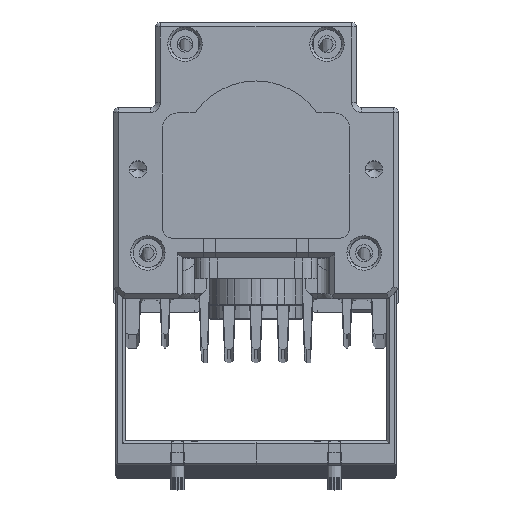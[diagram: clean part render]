
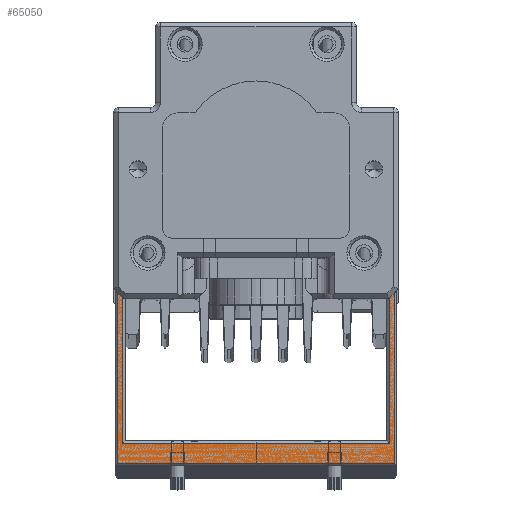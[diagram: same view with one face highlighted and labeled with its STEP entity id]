
A CAD part, top view. The second image highlights one B-rep face of the part: STEP entity #65050.
In plain terms, the highlighted planar face has unit normal (0, 0, 1).
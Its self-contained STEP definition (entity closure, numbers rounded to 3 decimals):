
#63782=DIRECTION('',(0.,1.,0.));
#63783=VECTOR('',#63782,1.);
#63784=CARTESIAN_POINT('',(-23.,-21.6,742.));
#63785=LINE('',#63784,#63783);
#63868=DIRECTION('',(0.,-1.,0.));
#63869=VECTOR('',#63868,1.);
#63870=CARTESIAN_POINT('',(23.,-20.6,742.));
#63871=LINE('',#63870,#63869);
#63892=DIRECTION('',(-1.,0.,0.));
#63893=VECTOR('',#63892,5.15);
#63894=CARTESIAN_POINT('',(28.15,-20.6,742.));
#63895=LINE('',#63894,#63893);
#63904=DIRECTION('',(0.,1.,0.));
#63905=VECTOR('',#63904,40.5);
#63906=CARTESIAN_POINT('',(28.15,-61.1,742.));
#63907=LINE('',#63906,#63905);
#64004=DIRECTION('',(1.,0.,0.));
#64005=VECTOR('',#64004,56.3);
#64006=CARTESIAN_POINT('',(-28.15,-61.1,742.));
#64007=LINE('',#64006,#64005);
#64012=DIRECTION('',(0.,-1.,0.));
#64013=VECTOR('',#64012,40.5);
#64014=CARTESIAN_POINT('',(-28.15,-20.6,742.));
#64015=LINE('',#64014,#64013);
#64024=DIRECTION('',(-1.,0.,0.));
#64025=VECTOR('',#64024,5.15);
#64026=CARTESIAN_POINT('',(-23.,-20.6,742.));
#64027=LINE('',#64026,#64025);
#64048=DIRECTION('',(1.,0.,0.));
#64049=VECTOR('',#64048,4.15);
#64050=CARTESIAN_POINT('',(-27.15,-21.6,742.));
#64051=LINE('',#64050,#64049);
#64152=DIRECTION('',(-1.,0.,0.));
#64153=VECTOR('',#64152,54.3);
#64154=CARTESIAN_POINT('',(27.15,-57.1,742.));
#64155=LINE('',#64154,#64153);
#64160=DIRECTION('',(0.,-1.,0.));
#64161=VECTOR('',#64160,35.5);
#64162=CARTESIAN_POINT('',(27.15,-21.6,742.));
#64163=LINE('',#64162,#64161);
#64164=DIRECTION('',(1.,0.,0.));
#64165=VECTOR('',#64164,4.15);
#64166=CARTESIAN_POINT('',(23.,-21.6,742.));
#64167=LINE('',#64166,#64165);
#64172=DIRECTION('',(0.,1.,0.));
#64173=VECTOR('',#64172,35.5);
#64174=CARTESIAN_POINT('',(-27.15,-57.1,742.));
#64175=LINE('',#64174,#64173);
#64408=CARTESIAN_POINT('',(-23.,-21.6,742.));
#64409=VERTEX_POINT('',#64408);
#64410=CARTESIAN_POINT('',(-23.,-20.6,742.));
#64411=VERTEX_POINT('',#64410);
#64435=CARTESIAN_POINT('',(23.,-20.6,742.));
#64437=VERTEX_POINT('',#64435);
#64438=CARTESIAN_POINT('',(23.,-21.6,742.));
#64439=VERTEX_POINT('',#64438);
#64440=CARTESIAN_POINT('',(28.15,-20.6,742.));
#64441=VERTEX_POINT('',#64440);
#64446=CARTESIAN_POINT('',(28.15,-61.1,742.));
#64447=VERTEX_POINT('',#64446);
#64474=CARTESIAN_POINT('',(-28.15,-61.1,742.));
#64475=VERTEX_POINT('',#64474);
#64476=CARTESIAN_POINT('',(-28.15,-20.6,742.));
#64477=VERTEX_POINT('',#64476);
#64478=CARTESIAN_POINT('',(-27.15,-21.6,742.));
#64479=VERTEX_POINT('',#64478);
#64480=CARTESIAN_POINT('',(-27.15,-57.1,742.));
#64481=VERTEX_POINT('',#64480);
#64482=CARTESIAN_POINT('',(27.15,-57.1,742.));
#64483=VERTEX_POINT('',#64482);
#64484=CARTESIAN_POINT('',(27.15,-21.6,742.));
#64485=VERTEX_POINT('',#64484);
#65026=CARTESIAN_POINT('',(0.,0.,742.));
#65027=DIRECTION('',(0.,0.,1.));
#65028=DIRECTION('',(-1.,0.,0.));
#65029=AXIS2_PLACEMENT_3D('',#65026,#65027,#65028);
#65030=PLANE('',#65029);
#65031=ORIENTED_EDGE('',*,*,#64862,.F.);
#65032=ORIENTED_EDGE('',*,*,#64882,.F.);
#65033=ORIENTED_EDGE('',*,*,#64974,.F.);
#65034=ORIENTED_EDGE('',*,*,#64990,.F.);
#65035=ORIENTED_EDGE('',*,*,#65008,.F.);
#65036=ORIENTED_EDGE('',*,*,#64718,.F.);
#65038=ORIENTED_EDGE('',*,*,#65037,.F.);
#65040=ORIENTED_EDGE('',*,*,#65039,.F.);
#65042=ORIENTED_EDGE('',*,*,#65041,.F.);
#65044=ORIENTED_EDGE('',*,*,#65043,.F.);
#65046=ORIENTED_EDGE('',*,*,#65045,.F.);
#65047=ORIENTED_EDGE('',*,*,#64841,.F.);
#65048=EDGE_LOOP('',(#65031,#65032,#65033,#65034,#65035,#65036,#65038,#65040,
#65042,#65044,#65046,#65047));
#65049=FACE_OUTER_BOUND('',#65048,.F.);
#64718=EDGE_CURVE('',#64409,#64411,#63785,.T.);
#64841=EDGE_CURVE('',#64437,#64439,#63871,.T.);
#64862=EDGE_CURVE('',#64441,#64437,#63895,.T.);
#64882=EDGE_CURVE('',#64447,#64441,#63907,.T.);
#64974=EDGE_CURVE('',#64475,#64447,#64007,.T.);
#64990=EDGE_CURVE('',#64477,#64475,#64015,.T.);
#65008=EDGE_CURVE('',#64411,#64477,#64027,.T.);
#65037=EDGE_CURVE('',#64479,#64409,#64051,.T.);
#65039=EDGE_CURVE('',#64481,#64479,#64175,.T.);
#65041=EDGE_CURVE('',#64483,#64481,#64155,.T.);
#65043=EDGE_CURVE('',#64485,#64483,#64163,.T.);
#65045=EDGE_CURVE('',#64439,#64485,#64167,.T.);
#65050=ADVANCED_FACE('',(#65049),#65030,.T.);
